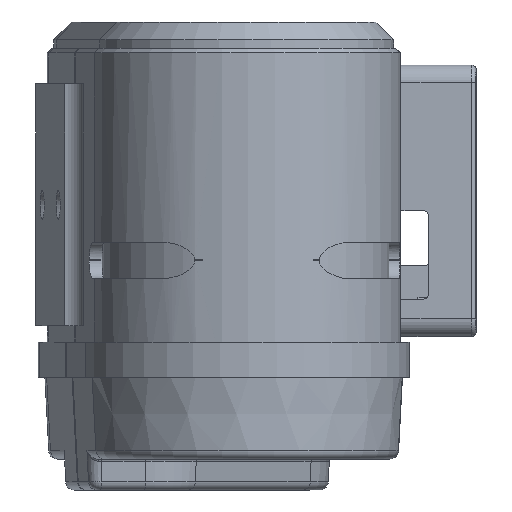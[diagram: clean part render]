
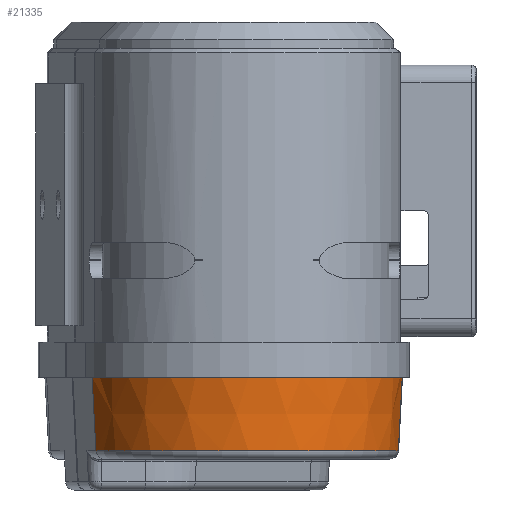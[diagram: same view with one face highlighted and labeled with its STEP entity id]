
A CAD part, left-side view. The second image highlights one B-rep face of the part: STEP entity #21335.
In plain terms, the highlighted conical face has half-angle 3 degrees and reference radius 35.5 mm.
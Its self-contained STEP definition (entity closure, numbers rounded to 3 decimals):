
#915 = CARTESIAN_POINT ( 'NONE',  ( -59., 0., -19.105 ) ) ;
#1502 = CARTESIAN_POINT ( 'NONE',  ( -59., 0., -2.5 ) ) ;
#1831 = CARTESIAN_POINT ( 'NONE',  ( -63.563, 35.206, -2.5 ) ) ;
#1848 = CARTESIAN_POINT ( 'NONE',  ( -62.008, -35.372, -2.5 ) ) ;
#2014 = EDGE_LOOP ( 'NONE', ( #17960, #7383, #2466, #9920 ) ) ;
#2292 = CIRCLE ( 'NONE', #22857, 34.63 ) ;
#2314 = CARTESIAN_POINT ( 'NONE',  ( -63.451, 34.343, -19.105 ) ) ;
#2466 = ORIENTED_EDGE ( 'NONE', *, *, #9203, .T. ) ;
#2601 = AXIS2_PLACEMENT_3D ( 'NONE', #5904, #6076, #14210 ) ;
#3796 = CARTESIAN_POINT ( 'NONE',  ( -61.935, -34.505, -19.105 ) ) ;
#5177 = DIRECTION ( 'NONE',  ( 0., 0., 1. ) ) ;
#5904 = CARTESIAN_POINT ( 'NONE',  ( -59., 0., -2.5 ) ) ;
#5920 = VERTEX_POINT ( 'NONE', #3796 ) ;
#6076 = DIRECTION ( 'NONE',  ( 0., 0., -1. ) ) ;
#7383 = ORIENTED_EDGE ( 'NONE', *, *, #16299, .T. ) ;
#9203 = EDGE_CURVE ( 'NONE', #5920, #14669, #11731, .T. ) ;
#9219 = DIRECTION ( 'NONE',  ( 1., 0., 0. ) ) ;
#9820 = VECTOR ( 'NONE', #20431, 1000. ) ;
#9854 = CIRCLE ( 'NONE', #2601, 35.5 ) ;
#9920 = ORIENTED_EDGE ( 'NONE', *, *, #20007, .T. ) ;
#9926 = CARTESIAN_POINT ( 'NONE',  ( -63.563, 35.206, -2.5 ) ) ;
#11111 = LINE ( 'NONE', #9926, #13331 ) ;
#11731 = LINE ( 'NONE', #1848, #9820 ) ;
#13331 = VECTOR ( 'NONE', #22216, 1000. ) ;
#14198 = CARTESIAN_POINT ( 'NONE',  ( -62.008, -35.372, -2.5 ) ) ;
#14210 = DIRECTION ( 'NONE',  ( -1., 0., 0. ) ) ;
#14669 = VERTEX_POINT ( 'NONE', #14198 ) ;
#14838 = VERTEX_POINT ( 'NONE', #1831 ) ;
#16299 = EDGE_CURVE ( 'NONE', #25611, #5920, #2292, .T. ) ;
#17960 = ORIENTED_EDGE ( 'NONE', *, *, #23324, .F. ) ;
#19593 = DIRECTION ( 'NONE',  ( 0., 0., 1. ) ) ;
#20007 = EDGE_CURVE ( 'NONE', #14669, #14838, #9854, .T. ) ;
#20170 = DIRECTION ( 'NONE',  ( -1., 0., 0. ) ) ;
#20392 = CONICAL_SURFACE ( 'NONE', #24023, 35.5, 0.052 ) ;
#20431 = DIRECTION ( 'NONE',  ( -0.004, -0.052, 0.999 ) ) ;
#21335 = ADVANCED_FACE ( 'NONE', ( #22352 ), #20392, .T. ) ;
#22216 = DIRECTION ( 'NONE',  ( -0.007, 0.052, 0.999 ) ) ;
#22352 = FACE_OUTER_BOUND ( 'NONE', #2014, .T. ) ;
#22857 = AXIS2_PLACEMENT_3D ( 'NONE', #915, #19593, #9219 ) ;
#23324 = EDGE_CURVE ( 'NONE', #25611, #14838, #11111, .T. ) ;
#24023 = AXIS2_PLACEMENT_3D ( 'NONE', #1502, #5177, #20170 ) ;
#25611 = VERTEX_POINT ( 'NONE', #2314 ) ;
